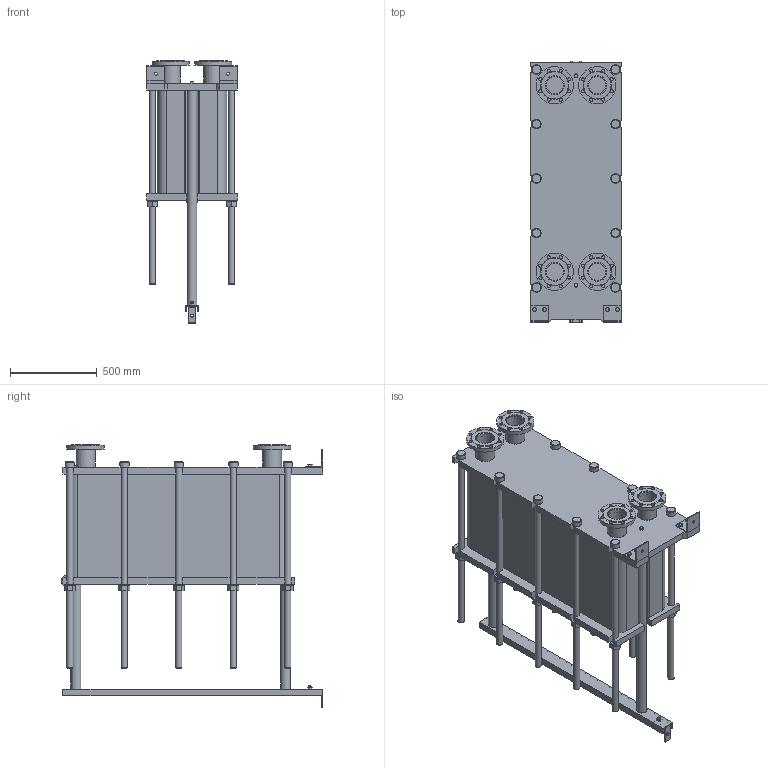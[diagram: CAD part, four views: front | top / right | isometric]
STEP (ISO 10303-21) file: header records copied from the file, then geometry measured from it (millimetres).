
FILE_DESCRIPTION(/* description */ (''),/* implementation_level */ '2;1');
FILE_NAME(/* name */ 'C:\Users\zhuro\Desktop\ENCO\TO\ЭН-04\ЭН-0,5-04-173-1.stp',/* time_stamp */ '2022-06-06T11:00:22+03:00',/* author */ ('zhuro'),/* organization */ (''),/* preprocessor_version */ 'ST-DEVELOPER v18.1',/* originating_system */ 'Autodesk Inventor 2022',/* authorisation */ '');
FILE_SCHEMA (('AUTOMOTIVE_DESIGN { 1 0 10303 214 3 1 1 }'));
Length unit declared in the file: millimetre
Products named in the file (1): ЭН-0,5-04-173-1
Bounding box: 520 x 1510 x 1516.5 mm (x, y, z)
Volume: 373414964.4 mm3; surface area: 9960538.9 mm2
Topology: 45 solids, 45 shells, 668 faces, 1611 edges, 1048 vertices
Faces by surface type: plane 457, cylinder 166, cone 39, torus 6
Full cylindrical faces by diameter (mm): 8 x4, 10 x2, 16 x8, 18 x35, 36 x25, 40 x2, 42 x1, 45 x4, 54 x10, 57 x2, 60 x10, 68 x2, 100 x4, 110 x8, 215 x4
Entity records: 23607 total; most frequent: CARTESIAN_POINT 7348, DIRECTION 3371, ORIENTED_EDGE 3142, EDGE_CURVE 1571, AXIS2_PLACEMENT_3D 1199, VERTEX_POINT 1044, LINE 973, VECTOR 973
